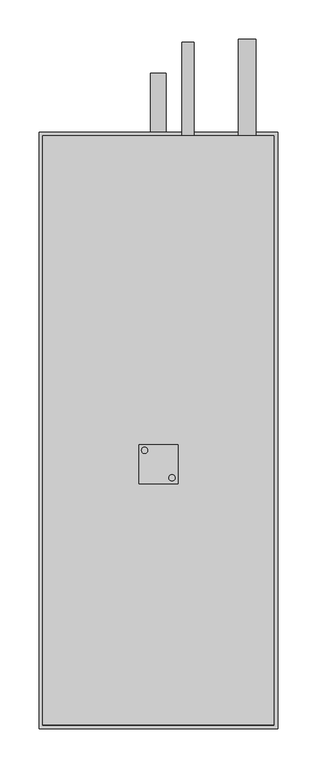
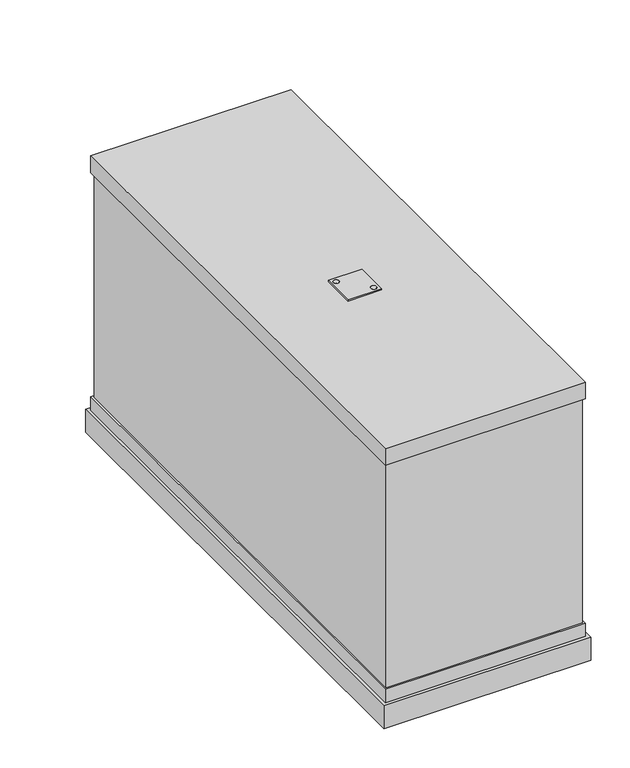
"""IFC4 building model written with IfcOpenShell, lengths in millimetres: proxy geometry, KORF_Воздухоохладитель_Фреоновый_FLO_Правый : FLO 60-35."""

from ifc_helpers import new_model, si_unit, point, frame, frame_2d, origin, place, context, project, spatial, polyline, circle_curve, trimmed, segment, composite_curve, outline, extrude, faceted_brep, source, transform, mapped, element, save


def mechanical_equipment_a385d8bf(model_context):
    return source(origin(), model_context, "Body", "SolidModel", [
        extrude(outline(composite_curve([segment(trimmed(circle_curve(frame_2d((170.5727066, -17.5745746)), 4.0), [point((174.5727066, -17.5745746))], [point((166.5727066, -17.5745746))], False, "CARTESIAN"), True, "CONTINUOUS"), segment(trimmed(circle_curve(frame_2d((170.5727066, -17.5745746)), 4.0), [point((166.5727066, -17.5745746))], [point((174.5727066, -17.5745746))], False, "CARTESIAN"), True, "CONTINUOUS")], self_intersect=False)), frame((0.0, 0.0, 201.0), z_axis=(0.0, 0.0, 1.0), x_axis=(1.0, 0.0, 0.0)), (0.0, 0.0, 1.0), 2.0),
        extrude(outline(composite_curve([segment(trimmed(circle_curve(frame_2d((135.4272934, 17.5745746)), 4.0), [point((131.4272934, 17.5745746))], [point((139.4272934, 17.5745746))], False, "CARTESIAN"), True, "CONTINUOUS"), segment(trimmed(circle_curve(frame_2d((135.4272934, 17.5745746)), 4.0), [point((139.4272934, 17.5745746))], [point((131.4272934, 17.5745746))], False, "CARTESIAN"), True, "CONTINUOUS")], self_intersect=False)), frame((0.0, 0.0, 201.0), z_axis=(0.0, 0.0, 1.0), x_axis=(1.0, 0.0, 0.0)), (0.0, 0.0, 1.0), 2.0),
        extrude(outline(polyline([(128.0, -25.0), (128.0, 25.0), (178.0, 25.0), (178.0, -25.0), (128.0, -25.0)]), holes=[composite_curve([segment(trimmed(circle_curve(frame_2d((170.5727066, -17.5745746)), 4.0), [point((174.5727066, -17.5745746))], [point((166.5727066, -17.5745746))], True, "CARTESIAN"), True, "CONTINUOUS"), segment(trimmed(circle_curve(frame_2d((170.5727066, -17.5745746)), 4.0), [point((166.5727066, -17.5745746))], [point((174.5727066, -17.5745746))], True, "CARTESIAN"), True, "CONTINUOUS")], self_intersect=False), composite_curve([segment(trimmed(circle_curve(frame_2d((135.4272934, 17.5745746)), 4.0), [point((131.4272934, 17.5745746))], [point((139.4272934, 17.5745746))], True, "CARTESIAN"), True, "CONTINUOUS"), segment(trimmed(circle_curve(frame_2d((135.4272934, 17.5745746)), 4.0), [point((139.4272934, 17.5745746))], [point((131.4272934, 17.5745746))], True, "CARTESIAN"), True, "CONTINUOUS")], self_intersect=False)]), frame((0.0, 0.0, 201.0), z_axis=(0.0, 0.0, 1.0), x_axis=(1.0, 0.0, 0.0)), (0.0, 0.0, 1.0), 2.0),
        faceted_brep([(306.0, -339.0, -196.0), (306.0, -339.0, -232.0), (306.0, 425.0, -232.0), (306.0, 425.0, -196.0), (0.0, -339.0, -196.0), (0.0, 425.0, -196.0), (0.0, 425.0, -232.0), (0.0, -339.0, -232.0), (301.0, 420.0, -196.0), (301.0, -334.0, -196.0), (5.0, -334.0, -196.0), (5.0, 420.0, -196.0), (298.0, -331.0, 175.0), (298.0, -331.0, -175.0), (298.0, -300.0, -175.0), (298.0, 300.0, -175.0), (298.0, 417.0, -175.0), (298.0, 417.0, 175.0), (298.0, 300.0, 175.0), (298.0, -300.0, 175.0), (8.0, 417.0, 175.0), (8.0, 417.0, -175.0), (8.0, 300.0, -175.0), (8.0, -300.0, -175.0), (8.0, -331.0, -175.0), (8.0, -331.0, 175.0), (8.0, -300.0, 175.0), (8.0, 300.0, 175.0), (301.0, -334.0, 175.0), (301.0, 420.0, 175.0), (301.0, 420.0, 201.0), (301.0, -334.0, 201.0), (301.0, -334.0, -175.0), (301.0, 420.0, -175.0), (5.0, -334.0, 175.0), (5.0, -334.0, 201.0), (5.0, 420.0, 201.0), (5.0, 420.0, 175.0), (5.0, -334.0, -175.0), (5.0, 420.0, -175.0)], [[[0, 1, 2, 3]], [[4, 5, 6, 7]], [[1, 0, 4, 7]], [[2, 1, 7, 6]], [[3, 2, 6, 5]], [[0, 3, 5, 4], [8, 9, 10, 11]], [[12, 13, 14, 15, 16, 17, 18, 19]], [[20, 21, 22, 23, 24, 25, 26, 27]], [[13, 12, 25, 24]], [[17, 16, 21, 20]], [[28, 29, 30, 31]], [[32, 9, 8, 33]], [[34, 35, 36, 37]], [[38, 39, 11, 10]], [[29, 28, 34, 37], [12, 19, 18, 17, 20, 27, 26, 25]], [[30, 29, 37, 36]], [[31, 30, 36, 35]], [[28, 31, 35, 34]], [[9, 32, 38, 10]], [[33, 8, 11, 39]], [[32, 33, 39, 38], [14, 13, 24, 23, 22, 21, 16, 15]]]),
        extrude(outline(composite_curve([segment(trimmed(circle_curve(frame_2d((-124.0, 267.0)), 11.11), [point((-124.0, 255.89))], [point((-124.0, 278.11))], False, "CARTESIAN"), True, "CONTINUOUS"), segment(trimmed(circle_curve(frame_2d((-124.0, 267.0)), 11.11), [point((-124.0, 278.11))], [point((-124.0, 255.89))], False, "CARTESIAN"), True, "CONTINUOUS")], self_intersect=False)), frame((0.0, 417.0, 0.0), z_axis=(0.0, 1.0, 0.0), x_axis=(0.0, 0.0, 1.0)), (0.0, 0.0, 1.0), 127.0),
        extrude(outline(composite_curve([segment(trimmed(circle_curve(frame_2d((66.0, 191.0)), 7.94), [point((66.0, 183.06))], [point((66.0, 198.94))], False, "CARTESIAN"), True, "CONTINUOUS"), segment(trimmed(circle_curve(frame_2d((66.0, 191.0)), 7.94), [point((66.0, 198.94))], [point((66.0, 183.06))], False, "CARTESIAN"), True, "CONTINUOUS")], self_intersect=False)), frame((0.0, 417.0, 0.0), z_axis=(0.0, 1.0, 0.0), x_axis=(0.0, 0.0, 1.0)), (0.0, 0.0, 1.0), 123.0),
        extrude(outline(composite_curve([segment(trimmed(circle_curve(frame_2d((-214.0, 153.0)), 10.0), [point((-214.0, 143.0))], [point((-214.0, 163.0))], False, "CARTESIAN"), True, "CONTINUOUS"), segment(trimmed(circle_curve(frame_2d((-214.0, 153.0)), 10.0), [point((-214.0, 163.0))], [point((-214.0, 143.0))], False, "CARTESIAN"), True, "CONTINUOUS")], self_intersect=False)), frame((0.0, 425.0, 0.0), z_axis=(0.0, 1.0, 0.0), x_axis=(0.0, 0.0, 1.0)), (0.0, 0.0, 1.0), 75.0),
    ])


if __name__ == "__main__":
    model = new_model("IFC4")
    model_context = context("Model", 3, world=origin())
    ifc_project = project(units=[si_unit("LENGTHUNIT", "METRE", prefix="MILLI")], contexts=[model_context])
    site = spatial("IfcSite", under=ifc_project)
    building = spatial("IfcBuilding", under=site)
    placement = place(None, origin())
    mechanical_equipment_shape = mechanical_equipment_a385d8bf(model_context)
    element("IfcBuildingElementProxy", 1, Name="KORF_Воздухоохладитель_Фреоновый_FLO_Правый : FLO 60-35", ObjectType="KORF_Воздухоохладитель_Фреоновый_FLO_Правый : FLO 60-35", at=placement, inside=building, context=model_context, shape_type="MappedRepresentation", body=[
        mapped(mechanical_equipment_shape, transform((0.0, 0.0, 0.0), x_axis=(1.0, 0.0, 0.0), y_axis=(0.0, 1.0, 0.0), z_axis=(0.0, 0.0, 1.0))),
    ])
    save(model, "model.ifc")
